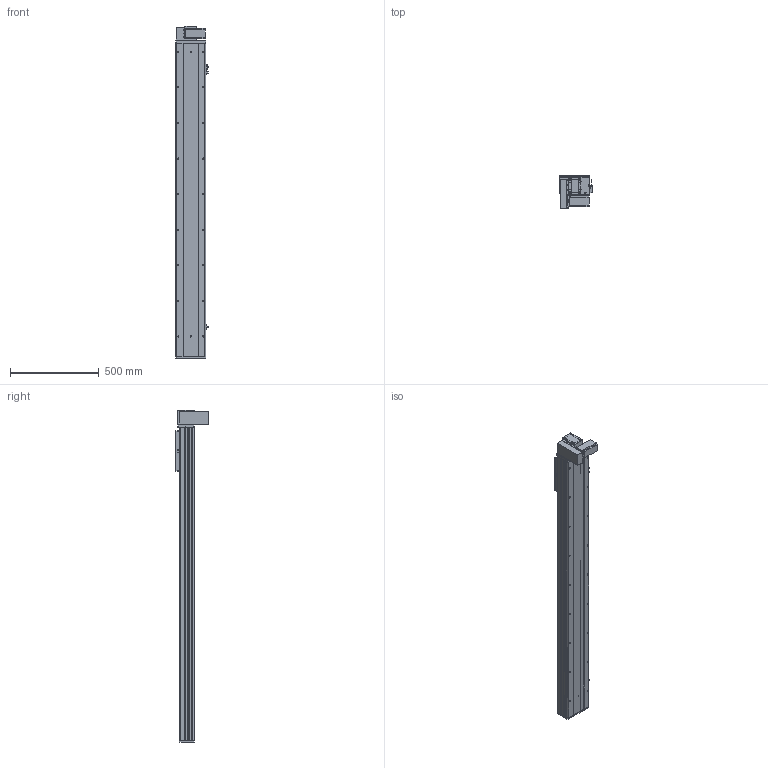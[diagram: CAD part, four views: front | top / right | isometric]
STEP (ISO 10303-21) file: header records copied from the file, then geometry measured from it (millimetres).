
FILE_DESCRIPTION (( 'STEP AP203' ), '1' );
FILE_NAME ('Y170CB-D105-S1450-BM-P400W.STEP', '2020-02-20T06:57:35', ( '微软用户' ), ( '微软中国' ), 'SwSTEP 2.0', 'SolidWorks 2017', '' );
FILE_SCHEMA (( 'CONFIG_CONTROL_DESIGN' ));
Length unit declared in the file: millimetre
Products named in the file (18): 70CB--耜裔; 70C-雄赽釱-奻-; B-源倛裔啣; 17B-耜蚾蟀諉啣----; 0C--雄赽釱俋欶-170; 0B-萇儂楊擘啣; 00B-俋欶BM--163; 70CB-詩湍--; san松下电机400不带刹车----; 70B喘謫眊----; Y100-135俋离換覜ん--; 70CB-掛极-; Y170CB-D105-S1450-BM-P400W; Y170CB-陔俋离換覜結え---; --70CB --喘謫眊楊擘啣-; Y1埴倛裔; 70CB-耜裔啣-; 70C--詩湍揤踡え-
Assembly tree (21 placements, depth 2):
  Y170CB-D105-S1450-BM-P400W
    B-源倛裔啣
    0B-萇儂楊擘啣
    san松下电机400不带刹车----
    70CB-掛极-
    --70CB --喘謫眊楊擘啣-
    70CB-耜裔啣-  x2
    70C--詩湍揤踡え-  x2
    70CB--耜裔
    70C-雄赽釱-奻-
    0C--雄赽釱俋欶-170
    70CB-詩湍--
    Y100-135俋离換覜ん--  x3
    Y170CB-陔俋离換覜結え---
    Y1埴倛裔
    17B-耜蚾蟀諉啣----
    00B-俋欶BM--163
    70B喘謫眊----
Bounding box: 183.5 x 184 x 1866 mm (x, y, z)
Volume: 8311696.6 mm3; surface area: 2988784.2 mm2
Topology: 21 solids, 21 shells, 1023 faces, 2741 edges, 1818 vertices
Faces by surface type: cylinder 537, plane 462, cone 24
Entity records: 32620 total; most frequent: CARTESIAN_POINT 5976, DIRECTION 5306, ORIENTED_EDGE 4964, EDGE_CURVE 2482, AXIS2_PLACEMENT_3D 1948, VERTEX_POINT 1648, LINE 1410, VECTOR 1410
